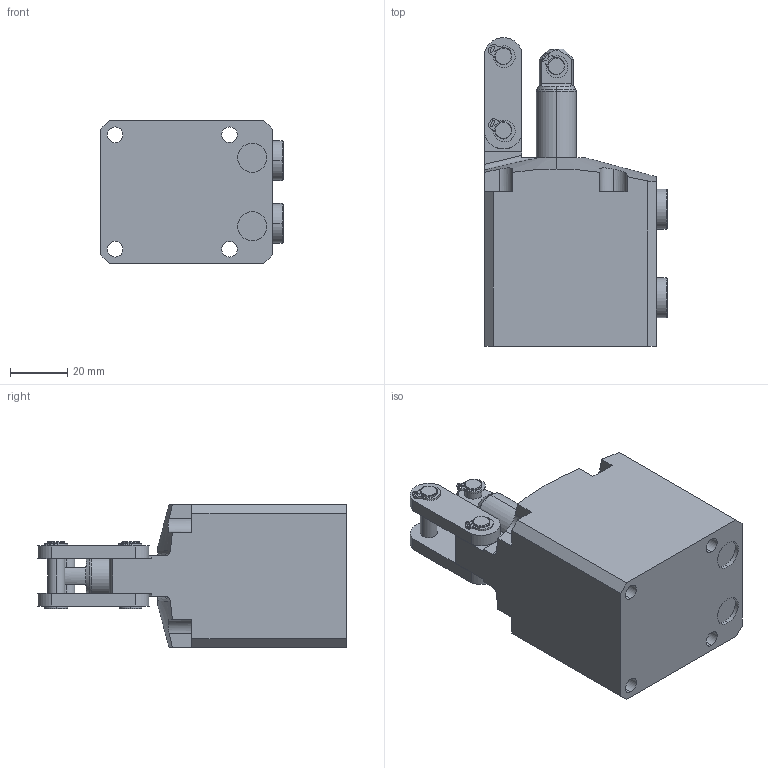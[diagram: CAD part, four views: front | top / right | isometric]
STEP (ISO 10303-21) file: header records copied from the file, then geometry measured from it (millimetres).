
FILE_DESCRIPTION(/* description */ (''),/* implementation_level */ '2;1');
FILE_NAME(/* name */ 'BPC04-F.stp',/* time_stamp */ '2025-01-05T10:04:57+08:00',/* author */ (''),/* organization */ (''),/* preprocessor_version */ 'ST-DEVELOPER v16.7',/* originating_system */ 'SIEMENS PLM Software NX 12.0',/* authorisation */ '');
FILE_SCHEMA (('AUTOMOTIVE_DESIGN { 1 0 10303 214 3 1 1 1 }'));
Length unit declared in the file: millimetre
Products named in the file (5): BPC04-F-04; BPC04-F-03; BPC04-F-01; BPC04-F-02; BPC04-F_stp
Assembly tree (5 placements, depth 2):
  BPC04-F_stp
    BPC04-F-02  x2
    BPC04-F-01
    BPC04-F-03
    BPC04-F-04
Bounding box: 63.8 x 107.97 x 50 mm (x, y, z)
Volume: 189701.9 mm3; surface area: 32568.2 mm2
Topology: 5 solids, 5 shells, 270 faces, 674 edges, 434 vertices
Faces by surface type: plane 120, cylinder 109, torus 20, cone 19, bspline 2
Entity records: 7897 total; most frequent: CARTESIAN_POINT 1633, DIRECTION 1338, ORIENTED_EDGE 1256, EDGE_CURVE 628, AXIS2_PLACEMENT_3D 504, VERTEX_POINT 406, LINE 330, VECTOR 330
